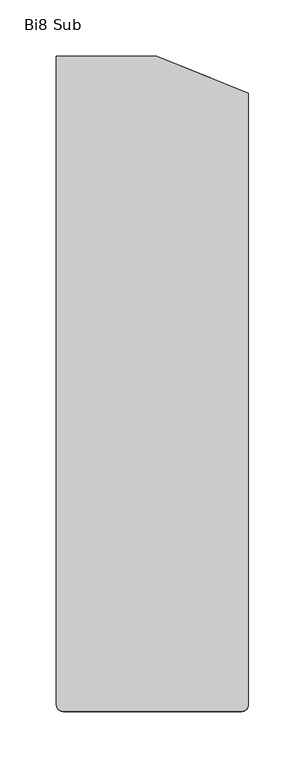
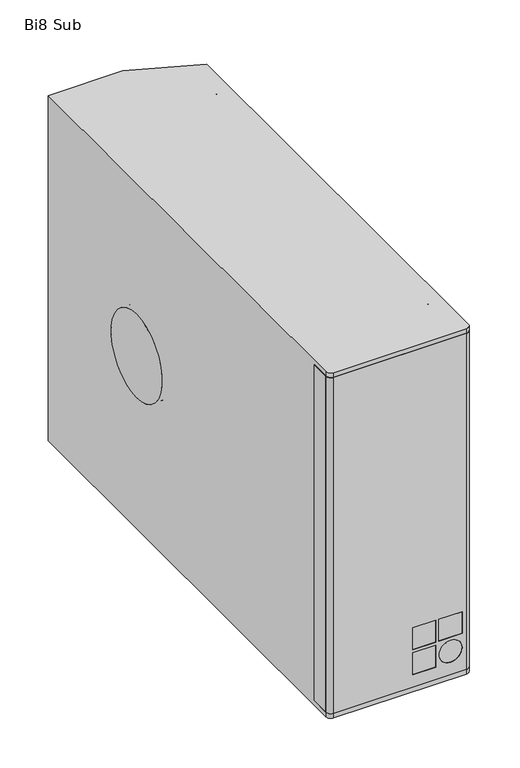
"""IFC4 building model written with IfcOpenShell, lengths in millimetres: proxy geometry, d&b Bi8 Subwoofer : Bi8 Sub."""

import ifcopenshell
import ifcopenshell.guid

model = None  # the IFC model being written
_history = None  # IfcOwnerHistory: only IFC2X3 demands one
_inside = {}  # id of a spatial element -> (the spatial element, [elements in it])
_under = {}  # id of a project, library or spatial element -> (it, [spatial elements below it])
_declared = {}  # id of a project -> (the project, [libraries it declares])
_typed = {}  # id of a type object -> (the type object, [elements of that type])
_made_of = {}  # id of a material, layer set ... -> (it, [elements and type objects made of it])


def new_model(schema):
    """Start an empty IFC model of exactly this schema.

    Asked for "IFC4X3", IfcOpenShell would pick the latest addendum, in which some entities
    have other attributes; the version numbers below select the first issue.
    IFC2X3 requires an IfcOwnerHistory on every rooted entity: one is made here for all.
    """
    global model, _history
    if schema == "IFC4X3":
        model = ifcopenshell.file(schema_version=(4, 3, 0, 0))
    else:
        model = ifcopenshell.file(schema=schema)
    _inside.clear()
    _under.clear()
    _declared.clear()
    _typed.clear()
    _made_of.clear()
    _history = None
    if model.schema == "IFC2X3":
        org = make("IfcOrganization", Name="unknown")
        user = make(
            "IfcPersonAndOrganization",
            ThePerson=make("IfcPerson", FamilyName="unknown"),
            TheOrganization=org,
        )
        app = make(
            "IfcApplication",
            ApplicationDeveloper=org,
            Version="unknown",
            ApplicationFullName="unknown",
            ApplicationIdentifier="unknown",
        )
        _history = make(
            "IfcOwnerHistory",
            OwningUser=user,
            OwningApplication=app,
            ChangeAction="ADDED",
            CreationDate=0,
        )
    return model


def make(cls, **values):
    """One entity of the class cls with the attributes given. An attribute that is None is left unset."""
    return model.create_entity(
        cls, **{name: value for name, value in values.items() if value is not None}
    )


def rooted(cls, **values):
    """An entity with a GlobalId (a new one), such as an element, a storey or a relation."""
    return make(cls, GlobalId=ifcopenshell.guid.new(), OwnerHistory=_history, **values)


def si_unit(unit_type, name, prefix=None):
    """IfcSIUnit, for example si_unit("LENGTHUNIT", "METRE", prefix="MILLI")."""
    return make("IfcSIUnit", UnitType=unit_type, Prefix=prefix, Name=name)


def assignment(units):
    """IfcUnitAssignment: the units of a project."""
    return None if units is None else make("IfcUnitAssignment", Units=units)


def point(xyz):
    """IfcCartesianPoint."""
    return None if xyz is None else make("IfcCartesianPoint", Coordinates=xyz)


def direction(xyz):
    """IfcDirection."""
    return None if xyz is None else make("IfcDirection", DirectionRatios=xyz)


def frame(location, z_axis=None, x_axis=None):
    """IfcAxis2Placement3D, a coordinate frame: its origin and axes. An axis left out is left unset."""
    return make(
        "IfcAxis2Placement3D",
        Location=point(location),
        Axis=direction(z_axis),
        RefDirection=direction(x_axis),
    )


def frame_2d(location, x_axis=None):
    """IfcAxis2Placement2D, a coordinate frame in the plane: its origin and x axis."""
    return make(
        "IfcAxis2Placement2D", Location=point(location), RefDirection=direction(x_axis)
    )


def origin():
    """The frame at (0, 0, 0) with its axes left unset."""
    return frame((0.0, 0.0, 0.0))


def place(relative_to, where):
    """IfcLocalPlacement: puts the frame where relative to a parent placement (None: the world)."""
    return make(
        "IfcLocalPlacement", PlacementRelTo=relative_to, RelativePlacement=where
    )


def context(
    kind, dimensions, precision=None, world=None, true_north=None, identifier=None
):
    """IfcGeometricRepresentationContext, for example the 3D "Model" context."""
    return make(
        "IfcGeometricRepresentationContext",
        ContextIdentifier=identifier,
        ContextType=kind,
        CoordinateSpaceDimension=dimensions,
        Precision=precision,
        WorldCoordinateSystem=world,
        TrueNorth=true_north,
    )


def project(units=None, contexts=None):
    """IfcProject with its units and contexts."""
    return rooted(
        "IfcProject",
        Name="project",
        RepresentationContexts=contexts,
        UnitsInContext=assignment(units),
    )


def spatial(cls, under=None, at=None, **own):
    """A site, building, storey or space (cls), placed at a placement, below another one or the project."""
    s = rooted(cls, ObjectPlacement=at, **own)
    if under is not None:
        _under.setdefault(under.id(), (under, []))[1].append(s)
    return s


def polyline(points):
    """IfcPolyline through the points."""
    return make("IfcPolyline", Points=[point(p) for p in points])


def circle_curve(where, radius):
    """IfcCircle in the frame where."""
    return make("IfcCircle", Position=where, Radius=radius)


def ellipse_curve(where, semi_axis1, semi_axis2):
    """IfcEllipse in the frame where."""
    return make(
        "IfcEllipse", Position=where, SemiAxis1=semi_axis1, SemiAxis2=semi_axis2
    )


def trimmed(basis, trim1, trim2, sense, master):
    """IfcTrimmedCurve: the piece of a basis curve between two trims."""
    return make(
        "IfcTrimmedCurve",
        BasisCurve=basis,
        Trim1=trim1,
        Trim2=trim2,
        SenseAgreement=sense,
        MasterRepresentation=master,
    )


def segment(curve, same_sense, transition):
    """IfcCompositeCurveSegment."""
    return make(
        "IfcCompositeCurveSegment",
        Transition=transition,
        SameSense=same_sense,
        ParentCurve=curve,
    )


def composite_curve(segments, self_intersect=None):
    """IfcCompositeCurve: segments joined end to end."""
    return make("IfcCompositeCurve", Segments=segments, SelfIntersect=self_intersect)


def outline(outer, holes=None, kind="AREA"):
    """IfcArbitraryClosedProfileDef: a profile drawn as a closed curve; with holes, ...WithVoids."""
    if holes is None:
        return make("IfcArbitraryClosedProfileDef", ProfileType=kind, OuterCurve=outer)
    return make(
        "IfcArbitraryProfileDefWithVoids",
        ProfileType=kind,
        OuterCurve=outer,
        InnerCurves=holes,
    )


def extrude(swept, where, along, depth):
    """IfcExtrudedAreaSolid: the profile swept, set in the frame where, extruded along a direction by depth."""
    return make(
        "IfcExtrudedAreaSolid",
        SweptArea=swept,
        Position=where,
        ExtrudedDirection=direction(along),
        Depth=depth,
    )


def shape(context_of_items, identifier, shape_type, items):
    """IfcShapeRepresentation: the items that make up one representation, for example the "Body"."""
    return make(
        "IfcShapeRepresentation",
        ContextOfItems=context_of_items,
        RepresentationIdentifier=identifier,
        RepresentationType=shape_type,
        Items=items,
    )


def source(mapping_origin, context_of_items, identifier, shape_type, items):
    """IfcRepresentationMap: a shape defined once, which mapped items show again and again."""
    return make(
        "IfcRepresentationMap",
        MappingOrigin=mapping_origin,
        MappedRepresentation=shape(context_of_items, identifier, shape_type, items),
    )


def transform(
    local_origin,
    x_axis=None,
    y_axis=None,
    z_axis=None,
    scale=None,
    scale2=None,
    scale3=None,
    uniform=True,
):
    """IfcCartesianTransformationOperator3D, or its non-uniform kind. x_axis, y_axis, z_axis: its Axis1, 2, 3."""
    if uniform:
        return make(
            "IfcCartesianTransformationOperator3D",
            Axis1=direction(x_axis),
            Axis2=direction(y_axis),
            LocalOrigin=point(local_origin),
            Scale=scale,
            Axis3=direction(z_axis),
        )
    return make(
        "IfcCartesianTransformationOperator3DnonUniform",
        Axis1=direction(x_axis),
        Axis2=direction(y_axis),
        LocalOrigin=point(local_origin),
        Scale=scale,
        Axis3=direction(z_axis),
        Scale2=scale2,
        Scale3=scale3,
    )


def mapped(mapping_source, mapping_target):
    """IfcMappedItem: shows the shape of a source again, moved by a transform."""
    return make(
        "IfcMappedItem", MappingSource=mapping_source, MappingTarget=mapping_target
    )


def made_of(thing, what):
    """Note that an element or type object is made of a material, layer set ...; save() writes the relation."""
    if what is not None:
        _made_of.setdefault(what.id(), (what, []))[1].append(thing)
    return thing


def element(
    cls,
    number,
    at=None,
    inside=None,
    cuts=None,
    type_object=None,
    material=None,
    context=None,
    identifier="Body",
    shape_type=None,
    held_by="IfcProductDefinitionShape",
    body=None,
    shapes=None,
    **own,
):
    """One element of the class cls, such as IfcWall. Its Tag is "e" and its number.

    at: its placement. inside: the storey or other place that contains it. cuts: it is an
    opening in that element (IfcRelVoidsElement). A single representation is given by context,
    identifier, shape_type and body (its items); several are given by shapes. held_by: the class
    of the entity that holds the representations. save() writes the other relations.
    """
    e = rooted(cls, Tag="e%d" % number, ObjectPlacement=at, **own)
    if body is not None:
        shapes = [shape(context, identifier, shape_type, body)]
    if shapes is not None:
        e.Representation = make(held_by, Representations=shapes)
    if inside is not None:
        _inside.setdefault(inside.id(), (inside, []))[1].append(e)
    if cuts is not None:
        rooted(
            "IfcRelVoidsElement", RelatingBuildingElement=cuts, RelatedOpeningElement=e
        )
    if type_object is not None:
        _typed.setdefault(type_object.id(), (type_object, []))[1].append(e)
    return made_of(e, material)


def aggregate(whole, parts):
    """IfcRelAggregates: a whole, such as a stair, and the parts it consists of."""
    return rooted("IfcRelAggregates", RelatingObject=whole, RelatedObjects=parts)


def save(model, path):
    """Write the relations noted so far, then the file.

    IfcRelAggregates (storeys below a building ...), IfcRelContainedInSpatialStructure (elements
    in a storey), IfcRelDefinesByType, IfcRelAssociatesMaterial and IfcRelDeclares: one each for
    every whole, place, type object, material and project.
    """
    for whole, parts in _under.values():
        aggregate(whole, parts)
    for where, things in _inside.values():
        rooted(
            "IfcRelContainedInSpatialStructure",
            RelatedElements=things,
            RelatingStructure=where,
        )
    for kind, things in _typed.values():
        rooted("IfcRelDefinesByType", RelatedObjects=things, RelatingType=kind)
    for what, things in _made_of.values():
        rooted("IfcRelAssociatesMaterial", RelatedObjects=things, RelatingMaterial=what)
    for by, libraries in _declared.values():
        rooted("IfcRelDeclares", RelatingContext=by, RelatedDefinitions=libraries)
    model.write(path)


def plane_surface(at):
    """IfcPlane: the flat surface through the origin of the frame at, square to its z axis."""
    return make("IfcPlane", Position=at)


def cylinder_surface(at, radius):
    """IfcCylindricalSurface: all points at the distance radius from the z axis of the frame at."""
    return make("IfcCylindricalSurface", Position=at, Radius=radius)


def revolved_surface(curve, axis_point, axis_direction):
    """IfcSurfaceOfRevolution: the curve turned about the line through axis_point along axis_direction."""
    return make(
        "IfcSurfaceOfRevolution",
        SweptCurve=make("IfcArbitraryOpenProfileDef", ProfileType="CURVE", Curve=curve),
        AxisPosition=make("IfcAxis1Placement", Location=point(axis_point), Axis=direction(axis_direction)),
    )


def advanced_brep(points, edges, surfaces, faces):
    """IfcAdvancedBrep: a solid bounded by faces that lie on surfaces and meet in shared edges.

    An edge is (start, end): straight between two places in points (the first is 0);
    or (start, end, curve); or (start, end, curve, False) where it runs against its curve.
    A face is (place in surfaces, loops), or (place, loops, False) where it looks against
    its surface's normal. A loop lists edges by number (the first is 1), with a minus sign
    where the edge is run from its end to its start. The first loop is the outer one.
    """
    corners = [point(p) for p in points]
    vertices = [make("IfcVertexPoint", VertexGeometry=c) for c in corners]
    made = []
    for start, end, *more in edges:
        made.append(
            make(
                "IfcEdgeCurve",
                EdgeStart=vertices[start],
                EdgeEnd=vertices[end],
                EdgeGeometry=more[0] if more else make("IfcPolyline", Points=[corners[start], corners[end]]),
                SameSense=more[1] if len(more) > 1 else True,
            )
        )
    hull = []
    for where, loops, *sense in faces:
        bounds = []
        for j, loop in enumerate(loops):
            ring = [make("IfcOrientedEdge", EdgeElement=made[abs(k) - 1], Orientation=k > 0) for k in loop]
            bounds.append(
                make(
                    "IfcFaceOuterBound" if j == 0 else "IfcFaceBound",
                    Bound=make("IfcEdgeLoop", EdgeList=ring),
                    Orientation=True,
                )
            )
        hull.append(make("IfcAdvancedFace", Bounds=bounds, FaceSurface=surfaces[where], SameSense=sense[0] if sense else True))
    return make("IfcAdvancedBrep", Outer=make("IfcClosedShell", CfsFaces=hull))


def bi8_sub_f5dac4f3(model_context):
    return source(origin(), model_context, "Body", "SolidModel", [
        advanced_brep(
        [(76.25, -290.0, 212.0), (82.25, -284.0, 212.0), (-87.75, -284.0, 212.0), (-81.75, -290.0, 212.0), (76.25, -290.0, -212.0), (-81.75, -290.0, -212.0), (-87.75, -284.0, -212.0), (82.25, -284.0, -212.0), (39.7780899, -290.0, -164.8089888), (12.25, -290.0, -164.8089888), (12.25, -290.0, -137.2808989), (39.7780899, -290.0, -137.2808989), (39.7780899, -290.0, -196.2696629), (12.25, -290.0, -196.2696629), (12.25, -290.0, -168.741573), (39.7780899, -290.0, -168.741573), (71.238764, -290.0, -164.8089888), (43.7106742, -290.0, -164.8089888), (43.7106742, -290.0, -137.2808989), (71.238764, -290.0, -137.2808989), (57.4747191, -290.0, -168.741573), (57.4747191, -290.0, -196.2696629), (12.25, -284.0, -164.8089888), (39.7780899, -284.0, -164.8089888), (39.7780899, -284.0, -137.2808989), (12.25, -284.0, -137.2808989), (12.25, -284.0, -196.2696629), (39.7780899, -284.0, -196.2696629), (39.7780899, -284.0, -168.741573), (12.25, -284.0, -168.741573), (43.7106742, -284.0, -164.8089888), (71.238764, -284.0, -164.8089888), (71.238764, -284.0, -137.2808989), (43.7106742, -284.0, -137.2808989), (57.4747191, -284.0, -196.2696629), (57.4747191, -284.0, -168.741573)],
        [
            (0, 1, circle_curve(frame((76.25, -284.0, 212.0), z_axis=(0.0, 0.0, 1.0), x_axis=(0.0, 1.0, 0.0)), 6.0)),
            (1, 2),
            (2, 3, circle_curve(frame((-81.75, -284.0, 212.0), z_axis=(0.0, 0.0, 1.0), x_axis=(0.0, 1.0, 0.0)), 6.0)),
            (3, 0),
            (4, 5),
            (5, 6, circle_curve(frame((-81.75, -284.0, -212.0), z_axis=(0.0, 0.0, -1.0), x_axis=(0.0, 1.0, 0.0)), 6.0)),
            (6, 7),
            (7, 4, circle_curve(frame((76.25, -284.0, -212.0), z_axis=(0.0, 0.0, -1.0), x_axis=(0.0, 1.0, 0.0)), 6.0)),
            (3, 5),
            (4, 0),
            (8, 9),
            (9, 10),
            (10, 11),
            (11, 8),
            (12, 13),
            (13, 14),
            (14, 15),
            (15, 12),
            (16, 17),
            (17, 18),
            (18, 19),
            (19, 16),
            (20, 21, circle_curve(frame((57.4747191, -290.0, -182.505618), z_axis=(0.0, 1.0, 0.0), x_axis=(0.0, 0.0, 1.0)), 13.7640449)),
            (21, 20, circle_curve(frame((57.4747191, -290.0, -182.505618), z_axis=(0.0, 1.0, 0.0), x_axis=(0.0, 0.0, 1.0)), 13.7640449)),
            (2, 6),
            (7, 1),
            (22, 23),
            (23, 24),
            (24, 25),
            (25, 22),
            (26, 27),
            (27, 28),
            (28, 29),
            (29, 26),
            (30, 31),
            (31, 32),
            (32, 33),
            (33, 30),
            (34, 35, circle_curve(frame((57.4747191, -284.0, -182.505618), z_axis=(0.0, -1.0, 0.0), x_axis=(0.0, 0.0, 1.0)), 13.7640449)),
            (35, 34, circle_curve(frame((57.4747191, -284.0, -182.505618), z_axis=(0.0, -1.0, 0.0), x_axis=(0.0, 0.0, 1.0)), 13.7640449)),
            (23, 8),
            (11, 24),
            (10, 25),
            (9, 22),
            (31, 16),
            (19, 32),
            (18, 33),
            (17, 30),
            (12, 27),
            (26, 13),
            (15, 28),
            (14, 29),
            (20, 35),
            (34, 21),
        ],
        [
            plane_surface(frame((76.25, -278.0, 212.0), z_axis=(0.0, 0.0, 1.0), x_axis=(-1.0, 0.0, 0.0))),
            plane_surface(frame((76.25, -278.0, -212.0), z_axis=(0.0, 0.0, -1.0), x_axis=(1.0, 0.0, 0.0))),
            plane_surface(frame((-81.75, -290.0, 212.0), z_axis=(0.0, -1.0, 0.0), x_axis=(0.0, 0.0, -1.0))),
            cylinder_surface(frame((-81.75, -284.0, -212.0), z_axis=(0.0, 0.0, 1.0), x_axis=(0.0, 1.0, 0.0)), 6.0),
            cylinder_surface(frame((76.25, -284.0, -212.0), z_axis=(0.0, 0.0, 1.0), x_axis=(0.0, 1.0, 0.0)), 6.0),
            plane_surface(frame((82.25, -284.0, 212.0), z_axis=(0.0, 1.0, 0.0), x_axis=(0.0, 0.0, -1.0))),
            plane_surface(frame((39.7780899, -290.0, -164.8089888), z_axis=(-1.0, 0.0, 0.0), x_axis=(0.0, 1.0, 0.0))),
            plane_surface(frame((39.7780899, -290.0, -137.2808989), z_axis=(0.0, 0.0, -1.0), x_axis=(0.0, 1.0, 0.0))),
            plane_surface(frame((12.25, -290.0, -137.2808989), z_axis=(1.0, 0.0, 0.0), x_axis=(0.0, 1.0, 0.0))),
            plane_surface(frame((71.238764, -290.0, -164.8089888), z_axis=(-1.0, 0.0, 0.0), x_axis=(0.0, 1.0, 0.0))),
            plane_surface(frame((71.238764, -290.0, -137.2808989), z_axis=(0.0, 0.0, -1.0), x_axis=(0.0, 1.0, 0.0))),
            plane_surface(frame((43.7106742, -290.0, -137.2808989), z_axis=(1.0, 0.0, 0.0), x_axis=(0.0, 1.0, 0.0))),
            plane_surface(frame((12.25, -290.0, -164.8089888), z_axis=(0.0, 0.0, 1.0), x_axis=(0.0, 1.0, 0.0))),
            plane_surface(frame((12.25, -290.0, -196.2696629), z_axis=(0.0, 0.0, 1.0), x_axis=(0.0, 1.0, 0.0))),
            plane_surface(frame((39.7780899, -290.0, -196.2696629), z_axis=(-1.0, 0.0, 0.0), x_axis=(0.0, 1.0, 0.0))),
            plane_surface(frame((39.7780899, -290.0, -168.741573), z_axis=(0.0, 0.0, -1.0), x_axis=(0.0, 1.0, 0.0))),
            plane_surface(frame((12.25, -290.0, -168.741573), z_axis=(1.0, 0.0, 0.0), x_axis=(0.0, 1.0, 0.0))),
            plane_surface(frame((43.7106742, -290.0, -164.8089888), z_axis=(0.0, 0.0, 1.0), x_axis=(0.0, 1.0, 0.0))),
            revolved_surface(polyline([(57.4747191, -290.0, -168.7415731), (57.4747191, -284.0, -168.7415731)]), (57.4747191, -290.0, -182.505618), (0.0, -1.0, 0.0)),
        ],
        [
            (0, [[1, 2, 3, 4]]),
            (1, [[5, 6, 7, 8]]),
            (2, [[-4, 9, -5, 10], [11, 12, 13, 14], [15, 16, 17, 18], [19, 20, 21, 22], [23, 24]]),
            (3, [[-3, 25, -6, -9]]),
            (4, [[-1, -10, -8, 26]]),
            (5, [[-2, -26, -7, -25], [27, 28, 29, 30], [31, 32, 33, 34], [35, 36, 37, 38], [39, 40]]),
            (6, [[41, -14, 42, -28]]),
            (7, [[-42, -13, 43, -29]]),
            (8, [[44, -30, -43, -12]]),
            (9, [[45, -22, 46, -36]]),
            (10, [[-46, -21, 47, -37]]),
            (11, [[48, -38, -47, -20]]),
            (12, [[-41, -27, -44, -11]]),
            (13, [[49, -31, 50, -15]]),
            (14, [[-49, -18, 51, -32]]),
            (15, [[-51, -17, 52, -33]]),
            (16, [[-50, -34, -52, -16]]),
            (17, [[-45, -35, -48, -19]]),
            (18, [[53, -39, 54, -23]]),
            (18, [[-53, -24, -54, -40]]),
        ],
    ),
        extrude(outline(polyline([(39.7780899, -290.0), (12.25, -290.0), (12.25, -284.0), (39.7780899, -284.0), (39.7780899, -290.0)])), frame((0.0, 0.0, -164.8089888), z_axis=(0.0, 0.0, 1.0), x_axis=(1.0, 0.0, 0.0)), (0.0, 0.0, 1.0), 27.5280899),
        extrude(outline(polyline([(39.7780899, -290.0), (12.25, -290.0), (12.25, -284.0), (39.7780899, -284.0), (39.7780899, -290.0)])), frame((0.0, 0.0, -196.2696629), z_axis=(0.0, 0.0, 1.0), x_axis=(1.0, 0.0, 0.0)), (0.0, 0.0, 1.0), 27.5280899),
        extrude(outline(polyline([(71.238764, -290.0), (43.7106742, -290.0), (43.7106742, -284.0), (71.238764, -284.0), (71.238764, -290.0)])), frame((0.0, 0.0, -164.8089888), z_axis=(0.0, 0.0, 1.0), x_axis=(1.0, 0.0, 0.0)), (0.0, 0.0, 1.0), 27.5280899),
        extrude(outline(composite_curve([segment(trimmed(circle_curve(frame_2d((-182.505618, 57.4747191)), 13.7640449), [point((-196.2696629, 57.4747191))], [point((-168.741573, 57.4747191))], False, "CARTESIAN"), True, "CONTINUOUS"), segment(trimmed(circle_curve(frame_2d((-182.505618, 57.4747191)), 13.7640449), [point((-168.741573, 57.4747191))], [point((-196.2696629, 57.4747191))], False, "CARTESIAN"), True, "CONTINUOUS")], self_intersect=False)), frame((0.0, -290.0, 0.0), z_axis=(0.0, 1.0, 0.0), x_axis=(0.0, 0.0, 1.0)), (0.0, 0.0, 1.0), 6.0),
        extrude(outline(polyline([(-87.75, -284.0), (-87.75, -260.0), (82.25, -260.0), (82.25, -284.0), (-87.75, -284.0)])), frame((0.0, 0.0, -212.0), z_axis=(0.0, 0.0, 1.0), x_axis=(1.0, 0.0, 0.0)), (0.0, 0.0, 1.0), 424.0),
        extrude(outline(composite_curve([segment(trimmed(circle_curve(frame_2d((107.5, 0.0)), 52.5), [point((107.5, 52.5))], [point((107.5, -52.5))], False, "CARTESIAN"), True, "CONTINUOUS"), segment(trimmed(circle_curve(frame_2d((107.5, 0.0)), 52.5), [point((107.5, -52.5))], [point((107.5, 52.5))], False, "CARTESIAN"), True, "CONTINUOUS")], self_intersect=False)), frame((-87.75, 0.0, 0.0), z_axis=(1.0, 0.0, 0.0), x_axis=(0.0, 1.0, 0.0)), (0.0, 0.0, 1.0), 10.0),
        advanced_brep(
        [(82.25, -260.0, 212.0), (82.25, -260.0, -212.0), (82.25, -284.0, -212.0), (82.25, -284.0, -218.0), (82.25, 257.2738757, -218.0), (82.25, 257.2738757, 218.0), (82.25, -284.0, 218.0), (82.25, -284.0, 212.0), (82.25, 224.9288972, -159.7271934), (82.25, 224.9288972, -196.2271934), (82.25, 224.9288972, 196.2271934), (82.25, 224.9288972, 159.7271934), (82.25, -212.1163972, -159.7271934), (82.25, -212.1163972, -196.2271934), (82.25, -212.1163972, 196.2271934), (82.25, -212.1163972, 159.7271934), (1.25, 290.0, -218.0), (1.25, 290.0, -58.4448475), (3.0522628, 289.2718385, -58.4448475), (48.3436972, 270.9729113, -58.4448475), (60.3436972, 266.1245966, -46.4448475), (60.3436972, 266.1245966, 45.487267), (48.3436972, 270.9729113, 57.487267), (3.0522628, 289.2718385, 57.487267), (1.25, 290.0, 57.487267), (1.25, 290.0, 218.0), (-87.75, 290.0, -218.0), (-87.75, 290.0, 218.0), (-0.6938031, 290.0, 57.487267), (-47.4846055, 290.0, 57.487267), (-59.4846055, 290.0, 45.487267), (-59.4846055, 290.0, -46.4448475), (-47.4846055, 290.0, -58.4448475), (-0.6938031, 290.0, -58.4448475), (-87.75, -260.0, -212.0), (-87.75, -260.0, 212.0), (-87.75, -284.0, 212.0), (-87.75, -284.0, 218.0), (-87.75, -284.0, -218.0), (-87.75, -284.0, -212.0), (-87.75, 107.5, -52.5), (-87.75, 107.5, 52.5), (-81.75, -290.0, -212.0), (76.25, -290.0, -212.0), (76.25, -290.0, -218.0), (-81.75, -290.0, -218.0), (-57.75, 193.75, -218.0), (-57.75, 230.25, -218.0), (52.25, 193.75, -218.0), (52.25, 230.25, -218.0), (-57.75, -243.25, -218.0), (-57.75, -206.75, -218.0), (52.25, -243.25, -218.0), (52.25, -206.75, -218.0), (76.25, -290.0, 212.0), (-81.75, -290.0, 212.0), (-81.75, -290.0, 218.0), (76.25, -290.0, 218.0), (-77.75, 107.5, 52.5), (-77.75, 107.5, -52.5), (60.3436972, 256.954574, 45.487267), (60.3436972, 256.954574, -46.4448475), (54.6323637, 256.954574, -56.6650566), (54.6323637, 256.954574, 55.7074761), (-59.4846055, 256.954574, -46.4448475), (-59.4846055, 256.954574, 45.487267), (-57.9558933, 256.954574, 51.3483362), (-57.9558933, 256.954574, -52.3059167), (-57.9558933, 256.954574, 58.4448475), (54.6323637, 256.954574, 58.4448475), (36.3433986, 211.6877968, 58.4448475), (-60.4453371, 250.7929844, 58.4448475), (-60.4453371, 250.7929844, -58.4448475), (-57.9558933, 256.954574, -58.4448475), (36.3433986, 211.6877968, -58.4448475), (54.6323637, 256.954574, -58.4448475), (-47.4846055, 256.954574, 57.487267), (48.3436972, 256.954574, 57.487267), (-47.4846055, 256.954574, -58.4448475), (48.3436972, 256.954574, -58.4448475), (-57.75, 193.75, -212.5), (-57.75, 230.25, -212.5), (52.25, 193.75, -212.5), (52.25, 230.25, -212.5), (-57.75, -243.25, -212.5), (-57.75, -206.75, -212.5), (52.25, -243.25, -212.5), (52.25, -206.75, -212.5), (76.75, 224.9288972, -159.7271934), (76.75, 224.9288972, -196.2271934), (76.75, 224.9288972, 196.2271934), (76.75, 224.9288972, 159.7271934), (76.75, -212.1163972, -159.7271934), (76.75, -212.1163972, -196.2271934), (76.75, -212.1163972, 196.2271934), (76.75, -212.1163972, 159.7271934)],
        [
            (0, 1),
            (1, 2),
            (2, 3),
            (3, 4),
            (4, 5),
            (5, 6),
            (6, 7),
            (7, 0),
            (8, 9, circle_curve(frame((82.25, 224.9288972, -177.9771934), z_axis=(-1.0, 0.0, 0.0), x_axis=(0.0, 0.0, -1.0)), 18.25)),
            (9, 8, circle_curve(frame((82.25, 224.9288972, -177.9771934), z_axis=(-1.0, 0.0, 0.0), x_axis=(0.0, 0.0, -1.0)), 18.25)),
            (10, 11, circle_curve(frame((82.25, 224.9288972, 177.9771934), z_axis=(-1.0, 0.0, 0.0), x_axis=(0.0, 0.0, -1.0)), 18.25)),
            (11, 10, circle_curve(frame((82.25, 224.9288972, 177.9771934), z_axis=(-1.0, 0.0, 0.0), x_axis=(0.0, 0.0, -1.0)), 18.25)),
            (12, 13, circle_curve(frame((82.25, -212.1163972, -177.9771934), z_axis=(-1.0, 0.0, 0.0), x_axis=(0.0, 0.0, -1.0)), 18.25)),
            (13, 12, circle_curve(frame((82.25, -212.1163972, -177.9771934), z_axis=(-1.0, 0.0, 0.0), x_axis=(0.0, 0.0, -1.0)), 18.25)),
            (14, 15, circle_curve(frame((82.25, -212.1163972, 177.9771934), z_axis=(-1.0, 0.0, 0.0), x_axis=(0.0, 0.0, -1.0)), 18.25)),
            (15, 14, circle_curve(frame((82.25, -212.1163972, 177.9771934), z_axis=(-1.0, 0.0, 0.0), x_axis=(0.0, 0.0, -1.0)), 18.25)),
            (4, 16),
            (16, 17),
            (17, 18),
            (18, 19),
            (19, 20, ellipse_curve(frame((48.3436972, 270.9729113, -46.4448475), z_axis=(-0.3746065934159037, -0.9271838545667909, 0.0), x_axis=(-0.927183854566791, 0.37460659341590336, 0.0)), 12.9424169, 12.0)),
            (20, 21),
            (21, 22, ellipse_curve(frame((48.3436972, 270.9729113, 45.487267), z_axis=(-0.3746065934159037, -0.9271838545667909, 0.0), x_axis=(-0.927183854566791, 0.37460659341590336, 0.0)), 12.9424169, 12.0)),
            (22, 23),
            (23, 24),
            (24, 25),
            (25, 5),
            (16, 26),
            (26, 27),
            (27, 25),
            (24, 28),
            (28, 29),
            (29, 30, circle_curve(frame((-47.4846055, 290.0, 45.487267), z_axis=(0.0, -1.0, 0.0), x_axis=(0.0, 0.0, -1.0)), 12.0)),
            (30, 31),
            (31, 32, circle_curve(frame((-47.4846055, 290.0, -46.4448475), z_axis=(0.0, -1.0, 0.0), x_axis=(0.0, 0.0, -1.0)), 12.0)),
            (32, 33),
            (33, 17),
            (34, 35),
            (35, 36),
            (36, 37),
            (37, 27),
            (26, 38),
            (38, 39),
            (39, 34),
            (40, 41, circle_curve(frame((-87.75, 107.5, 0.0), z_axis=(1.0, 0.0, 0.0), x_axis=(0.0, 0.0, -1.0)), 52.5)),
            (41, 40, circle_curve(frame((-87.75, 107.5, 0.0), z_axis=(1.0, 0.0, 0.0), x_axis=(0.0, 0.0, -1.0)), 52.5)),
            (0, 35),
            (34, 1),
            (39, 42, circle_curve(frame((-81.75, -284.0, -212.0), z_axis=(0.0, 0.0, 1.0), x_axis=(0.0, 1.0, 0.0)), 6.0)),
            (42, 43),
            (43, 2, circle_curve(frame((76.25, -284.0, -212.0), z_axis=(0.0, 0.0, 1.0), x_axis=(0.0, 1.0, 0.0)), 6.0)),
            (3, 44, circle_curve(frame((76.25, -284.0, -218.0), z_axis=(0.0, 0.0, -1.0), x_axis=(0.0, 1.0, 0.0)), 6.0)),
            (44, 45),
            (45, 38, circle_curve(frame((-81.75, -284.0, -218.0), z_axis=(0.0, 0.0, -1.0), x_axis=(0.0, 1.0, 0.0)), 6.0)),
            (46, 47, circle_curve(frame((-57.75, 212.0, -218.0), z_axis=(0.0, 0.0, 1.0), x_axis=(0.0, 1.0, 0.0)), 18.25)),
            (47, 46, circle_curve(frame((-57.75, 212.0, -218.0), z_axis=(0.0, 0.0, 1.0), x_axis=(0.0, 1.0, 0.0)), 18.25)),
            (48, 49, circle_curve(frame((52.25, 212.0, -218.0), z_axis=(0.0, 0.0, 1.0), x_axis=(0.0, 1.0, 0.0)), 18.25)),
            (49, 48, circle_curve(frame((52.25, 212.0, -218.0), z_axis=(0.0, 0.0, 1.0), x_axis=(0.0, 1.0, 0.0)), 18.25)),
            (50, 51, circle_curve(frame((-57.75, -225.0, -218.0), z_axis=(0.0, 0.0, 1.0), x_axis=(0.0, 1.0, 0.0)), 18.25)),
            (51, 50, circle_curve(frame((-57.75, -225.0, -218.0), z_axis=(0.0, 0.0, 1.0), x_axis=(0.0, 1.0, 0.0)), 18.25)),
            (52, 53, circle_curve(frame((52.25, -225.0, -218.0), z_axis=(0.0, 0.0, 1.0), x_axis=(0.0, 1.0, 0.0)), 18.25)),
            (53, 52, circle_curve(frame((52.25, -225.0, -218.0), z_axis=(0.0, 0.0, 1.0), x_axis=(0.0, 1.0, 0.0)), 18.25)),
            (42, 45),
            (44, 43),
            (7, 54, circle_curve(frame((76.25, -284.0, 212.0), z_axis=(0.0, 0.0, -1.0), x_axis=(0.0, 1.0, 0.0)), 6.0)),
            (54, 55),
            (55, 36, circle_curve(frame((-81.75, -284.0, 212.0), z_axis=(0.0, 0.0, -1.0), x_axis=(0.0, 1.0, 0.0)), 6.0)),
            (37, 56, circle_curve(frame((-81.75, -284.0, 218.0), z_axis=(0.0, 0.0, 1.0), x_axis=(0.0, 1.0, 0.0)), 6.0)),
            (56, 57),
            (57, 6, circle_curve(frame((76.25, -284.0, 218.0), z_axis=(0.0, 0.0, 1.0), x_axis=(0.0, 1.0, 0.0)), 6.0)),
            (54, 57),
            (56, 55),
            (58, 59, circle_curve(frame((-77.75, 107.5, 0.0), z_axis=(-1.0, 0.0, 0.0), x_axis=(0.0, 0.0, -1.0)), 52.5)),
            (59, 58, circle_curve(frame((-77.75, 107.5, 0.0), z_axis=(-1.0, 0.0, 0.0), x_axis=(0.0, 0.0, -1.0)), 52.5)),
            (58, 41),
            (40, 59),
            (60, 61),
            (61, 62, circle_curve(frame((48.3436972, 256.954574, -46.4448475), z_axis=(0.0, 1.0, 0.0), x_axis=(0.0, 0.0, -1.0)), 12.0)),
            (62, 63),
            (63, 60, circle_curve(frame((48.3436972, 256.954574, 45.487267), z_axis=(0.0, 1.0, 0.0), x_axis=(0.0, 0.0, -1.0)), 12.0)),
            (64, 65),
            (65, 66, circle_curve(frame((-47.4846055, 256.954574, 45.487267), z_axis=(0.0, 1.0, 0.0), x_axis=(0.0, 0.0, -1.0)), 12.0)),
            (66, 67),
            (67, 64, circle_curve(frame((-47.4846055, 256.954574, -46.4448475), z_axis=(0.0, 1.0, 0.0), x_axis=(0.0, 0.0, -1.0)), 12.0)),
            (60, 21),
            (20, 61),
            (64, 31),
            (30, 65),
            (68, 69),
            (69, 70),
            (70, 71),
            (71, 68),
            (71, 72),
            (72, 73),
            (73, 67),
            (66, 68),
            (70, 74),
            (74, 72),
            (69, 63),
            (62, 75),
            (75, 74),
            (66, 76, circle_curve(frame((-47.4846055, 256.954574, 45.487267), z_axis=(0.0, 1.0, 0.0), x_axis=(0.0, 0.0, -1.0)), 12.0)),
            (76, 77),
            (77, 63, circle_curve(frame((48.3436972, 256.954574, 45.487267), z_axis=(0.0, 1.0, 0.0), x_axis=(0.0, 0.0, -1.0)), 12.0)),
            (73, 78),
            (78, 67, circle_curve(frame((-47.4846055, 256.954574, -46.4448475), z_axis=(0.0, 1.0, 0.0), x_axis=(0.0, 0.0, -1.0)), 12.0)),
            (79, 75),
            (62, 79, circle_curve(frame((48.3436972, 256.954574, -46.4448475), z_axis=(0.0, 1.0, 0.0), x_axis=(0.0, 0.0, -1.0)), 12.0)),
            (76, 29),
            (22, 77),
            (19, 79),
            (32, 78),
            (80, 81, circle_curve(frame((-57.75, 212.0, -212.5), z_axis=(0.0, 0.0, -1.0), x_axis=(0.0, 1.0, 0.0)), 18.25)),
            (81, 80, circle_curve(frame((-57.75, 212.0, -212.5), z_axis=(0.0, 0.0, -1.0), x_axis=(0.0, 1.0, 0.0)), 18.25)),
            (82, 83, circle_curve(frame((52.25, 212.0, -212.5), z_axis=(0.0, 0.0, -1.0), x_axis=(0.0, 1.0, 0.0)), 18.25)),
            (83, 82, circle_curve(frame((52.25, 212.0, -212.5), z_axis=(0.0, 0.0, -1.0), x_axis=(0.0, 1.0, 0.0)), 18.25)),
            (84, 85, circle_curve(frame((-57.75, -225.0, -212.5), z_axis=(0.0, 0.0, -1.0), x_axis=(0.0, 1.0, 0.0)), 18.25)),
            (85, 84, circle_curve(frame((-57.75, -225.0, -212.5), z_axis=(0.0, 0.0, -1.0), x_axis=(0.0, 1.0, 0.0)), 18.25)),
            (86, 87, circle_curve(frame((52.25, -225.0, -212.5), z_axis=(0.0, 0.0, -1.0), x_axis=(0.0, 1.0, 0.0)), 18.25)),
            (87, 86, circle_curve(frame((52.25, -225.0, -212.5), z_axis=(0.0, 0.0, -1.0), x_axis=(0.0, 1.0, 0.0)), 18.25)),
            (81, 47),
            (46, 80),
            (83, 49),
            (48, 82),
            (85, 51),
            (50, 84),
            (87, 53),
            (52, 86),
            (88, 89, circle_curve(frame((76.75, 224.9288972, -177.9771934), z_axis=(1.0, 0.0, 0.0), x_axis=(0.0, 0.0, -1.0)), 18.25)),
            (89, 88, circle_curve(frame((76.75, 224.9288972, -177.9771934), z_axis=(1.0, 0.0, 0.0), x_axis=(0.0, 0.0, -1.0)), 18.25)),
            (90, 91, circle_curve(frame((76.75, 224.9288972, 177.9771934), z_axis=(1.0, 0.0, 0.0), x_axis=(0.0, 0.0, -1.0)), 18.25)),
            (91, 90, circle_curve(frame((76.75, 224.9288972, 177.9771934), z_axis=(1.0, 0.0, 0.0), x_axis=(0.0, 0.0, -1.0)), 18.25)),
            (92, 93, circle_curve(frame((76.75, -212.1163972, -177.9771934), z_axis=(1.0, 0.0, 0.0), x_axis=(0.0, 0.0, -1.0)), 18.25)),
            (93, 92, circle_curve(frame((76.75, -212.1163972, -177.9771934), z_axis=(1.0, 0.0, 0.0), x_axis=(0.0, 0.0, -1.0)), 18.25)),
            (94, 95, circle_curve(frame((76.75, -212.1163972, 177.9771934), z_axis=(1.0, 0.0, 0.0), x_axis=(0.0, 0.0, -1.0)), 18.25)),
            (95, 94, circle_curve(frame((76.75, -212.1163972, 177.9771934), z_axis=(1.0, 0.0, 0.0), x_axis=(0.0, 0.0, -1.0)), 18.25)),
            (89, 9),
            (8, 88),
            (91, 11),
            (10, 90),
            (93, 13),
            (12, 92),
            (95, 15),
            (14, 94),
        ],
        [
            plane_surface(frame((82.25, -260.0, 212.0), z_axis=(1.0, 0.0, 0.0), x_axis=(0.0, 0.0, -1.0))),
            plane_surface(frame((82.25, 257.2738757, 212.0), z_axis=(0.3746065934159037, 0.9271838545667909, 0.0), x_axis=(0.0, 0.0, -1.0))),
            plane_surface(frame((1.25, 290.0, 212.0), z_axis=(0.0, 1.0, 0.0), x_axis=(0.0, 0.0, -1.0))),
            plane_surface(frame((-87.75, 290.0, 212.0), z_axis=(-1.0, 0.0, 0.0), x_axis=(0.0, 0.0, -1.0))),
            plane_surface(frame((-87.75, -260.0, 212.0), z_axis=(0.0, -1.0, 0.0), x_axis=(0.0, 0.0, -1.0))),
            plane_surface(frame((-81.75, -278.0, -212.0), z_axis=(0.0, 0.0, 1.0), x_axis=(-1.0, 0.0, 0.0))),
            plane_surface(frame((-81.75, -278.0, -218.0), z_axis=(0.0, 0.0, -1.0), x_axis=(1.0, 0.0, 0.0))),
            plane_surface(frame((-81.75, -290.0, -212.0), z_axis=(0.0, -1.0, 0.0), x_axis=(0.0, 0.0, -1.0))),
            cylinder_surface(frame((-81.75, -284.0, -218.0), z_axis=(0.0, 0.0, 1.0), x_axis=(0.0, 1.0, 0.0)), 6.0),
            cylinder_surface(frame((76.25, -284.0, -218.0), z_axis=(0.0, 0.0, 1.0), x_axis=(0.0, 1.0, 0.0)), 6.0),
            plane_surface(frame((-87.75, 264.0, 212.0), z_axis=(0.0, 0.0, -1.0), x_axis=(0.0, 1.0, 0.0))),
            plane_surface(frame((-87.75, 264.0, 218.0), z_axis=(0.0, 0.0, 1.0), x_axis=(0.0, -1.0, 0.0))),
            plane_surface(frame((76.25, -290.0, 212.0), z_axis=(0.0, -1.0, 0.0), x_axis=(0.0, 0.0, 1.0))),
            cylinder_surface(frame((76.25, -284.0, 218.0), z_axis=(0.0, 0.0, -1.0), x_axis=(0.0, 1.0, 0.0)), 6.0),
            cylinder_surface(frame((-81.75, -284.0, 218.0), z_axis=(0.0, 0.0, -1.0), x_axis=(0.0, 1.0, 0.0)), 6.0),
            plane_surface(frame((-77.75, 107.5, -52.5), z_axis=(-1.0, 0.0, 0.0), x_axis=(0.0, 1.0, 0.0))),
            revolved_surface(polyline([(-87.75, 107.5, -52.5), (-77.75, 107.5, -52.5)]), (-77.75, 107.5, 0.0), (-1.0, 0.0, 0.0)),
            plane_surface(frame((-47.4846055, 256.954574, 33.487267), z_axis=(0.0, 1.0, 0.0), x_axis=(1.0, 0.0, 0.0))),
            plane_surface(frame((60.3436972, 290.0, 45.487267), z_axis=(-1.0, 0.0, 0.0), x_axis=(0.0, -1.0, 0.0))),
            plane_surface(frame((-59.4846055, 290.0, -46.4448475), z_axis=(1.0, 0.0, 0.0), x_axis=(0.0, -1.0, 0.0))),
            plane_surface(frame((-60.4453371, 250.7929844, 58.4448475), z_axis=(0.0, 0.0, -1.0000000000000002), x_axis=(-0.3746065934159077, -0.9271838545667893, 0.0))),
            plane_surface(frame((-57.9558933, 256.954574, 58.4448475), z_axis=(0.9271838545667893, -0.3746065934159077, 0.0), x_axis=(0.0, 0.0, -1.0))),
            plane_surface(frame((-60.4453371, 250.7929844, 58.4448475), z_axis=(0.37460659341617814, 0.92718385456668, 0.0), x_axis=(0.0, 0.0, -1.0))),
            plane_surface(frame((36.3433986, 211.6877968, 58.4448475), z_axis=(-0.9271838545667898, 0.3746065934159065, 0.0), x_axis=(0.0, 0.0, -1.0))),
            plane_surface(frame((54.6323637, 256.954574, 58.4448475), z_axis=(0.0, -1.0, 0.0), x_axis=(0.0, 0.0, -1.0))),
            plane_surface(frame((-47.4846055, 290.0, 57.487267), z_axis=(0.0, 0.0, -1.0), x_axis=(0.0, -1.0, 0.0))),
            revolved_surface(polyline([(48.3436972, 275.82122600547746, 33.487267), (48.3436972, 256.954574, 33.487267)]), (48.3436972, 256.954574, 45.487267), (0.0, 1.0, 0.0)),
            revolved_surface(polyline([(48.3436972, 275.82122600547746, -58.4448475), (48.3436972, 256.954574, -58.4448475)]), (48.3436972, 256.954574, -46.4448475), (0.0, 1.0, 0.0)),
            plane_surface(frame((48.3436972, 290.0, -58.4448475), z_axis=(0.0, 0.0, 1.0), x_axis=(0.0, -1.0, 0.0))),
            revolved_surface(polyline([(-47.4846055, 290.0, 33.487267), (-47.4846055, 256.954574, 33.487267)]), (-47.4846055, 256.954574, 45.487267), (0.0, 1.0, 0.0)),
            revolved_surface(polyline([(-47.4846055, 290.0, -58.4448475), (-47.4846055, 256.954574, -58.4448475)]), (-47.4846055, 256.954574, -46.4448475), (0.0, 1.0, 0.0)),
            plane_surface(frame((-57.75, 230.25, -212.5), z_axis=(0.0, 0.0, -1.0), x_axis=(-1.0, 0.0, 0.0))),
            revolved_surface(polyline([(-57.75, 230.25, -212.5), (-57.75, 230.25, -218.0)]), (-57.75, 212.0, -218.0), (0.0, 0.0, 1.0)),
            revolved_surface(polyline([(52.25, 230.25, -212.5), (52.25, 230.25, -218.0)]), (52.25, 212.0, -218.0), (0.0, 0.0, 1.0)),
            revolved_surface(polyline([(-57.75, -206.75, -212.5), (-57.75, -206.75, -218.0)]), (-57.75, -225.0, -218.0), (0.0, 0.0, 1.0)),
            revolved_surface(polyline([(52.25, -206.75, -212.5), (52.25, -206.75, -218.0)]), (52.25, -225.0, -218.0), (0.0, 0.0, 1.0)),
            plane_surface(frame((76.75, 224.9288972, -196.2271934), z_axis=(1.0, 0.0, 0.0), x_axis=(0.0, -1.0, 0.0))),
            revolved_surface(polyline([(76.75, 224.9288972, -196.2271934), (82.25, 224.9288972, -196.2271934)]), (82.25, 224.9288972, -177.9771934), (-1.0, 0.0, 0.0)),
            revolved_surface(polyline([(76.75, 224.9288972, 159.7271934), (82.25, 224.9288972, 159.7271934)]), (82.25, 224.9288972, 177.9771934), (-1.0, 0.0, 0.0)),
            revolved_surface(polyline([(76.75, -212.1163972, -196.2271934), (82.25, -212.1163972, -196.2271934)]), (82.25, -212.1163972, -177.9771934), (-1.0, 0.0, 0.0)),
            revolved_surface(polyline([(76.75, -212.1163972, 159.7271934), (82.25, -212.1163972, 159.7271934)]), (82.25, -212.1163972, 177.9771934), (-1.0, 0.0, 0.0)),
        ],
        [
            (0, [[1, 2, 3, 4, 5, 6, 7, 8], [9, 10], [11, 12], [13, 14], [15, 16]]),
            (1, [[17, 18, 19, 20, 21, 22, 23, 24, 25, 26, 27, -5]]),
            (2, [[28, 29, 30, -26, 31, 32, 33, 34, 35, 36, 37, -18]]),
            (3, [[38, 39, 40, 41, -29, 42, 43, 44], [45, 46]]),
            (4, [[-1, 47, -38, 48]]),
            (5, [[49, 50, 51, -2, -48, -44]]),
            (6, [[-42, -28, -17, -4, 52, 53, 54], [55, 56], [57, 58], [59, 60], [61, 62]]),
            (7, [[-50, 63, -53, 64]]),
            (8, [[-49, -43, -54, -63]]),
            (9, [[-51, -64, -52, -3]]),
            (10, [[65, 66, 67, -39, -47, -8]]),
            (11, [[68, 69, 70, -6, -27, -30, -41]]),
            (12, [[-66, 71, -69, 72]]),
            (13, [[-65, -7, -70, -71]]),
            (14, [[-67, -72, -68, -40]]),
            (15, [[73, 74]]),
            (16, [[-73, 75, -45, 76]]),
            (16, [[-74, -76, -46, -75]]),
            (17, [[77, 78, 79, 80]]),
            (17, [[81, 82, 83, 84]]),
            (18, [[-77, 85, -22, 86]]),
            (19, [[-81, 87, -34, 88]]),
            (20, [[89, 90, 91, 92]]),
            (21, [[-92, 93, 94, 95, -83, 96]]),
            (22, [[-91, 97, 98, -93]]),
            (23, [[-90, 99, -79, 100, 101, -97]]),
            (24, [[-89, -96, 102, 103, 104, -99]]),
            (24, [[105, 106, -95]]),
            (24, [[107, -100, 108]]),
            (25, [[109, -32, -31, -25, -24, 110, -103]]),
            (26, [[-85, -80, -104, -110, -23]]),
            (27, [[-86, -21, 111, -108, -78]]),
            (28, [[112, -105, -94, -98, -101, -107, -111, -20, -19, -37, -36]]),
            (29, [[-88, -33, -109, -102, -82]]),
            (30, [[-87, -84, -106, -112, -35]]),
            (31, [[113, 114]]),
            (31, [[115, 116]]),
            (31, [[117, 118]]),
            (31, [[119, 120]]),
            (32, [[-114, 121, -55, 122]]),
            (32, [[-113, -122, -56, -121]]),
            (33, [[-116, 123, -57, 124]]),
            (33, [[-115, -124, -58, -123]]),
            (34, [[-118, 125, -59, 126]]),
            (34, [[-117, -126, -60, -125]]),
            (35, [[-120, 127, -61, 128]]),
            (35, [[-119, -128, -62, -127]]),
            (36, [[129, 130]]),
            (36, [[131, 132]]),
            (36, [[133, 134]]),
            (36, [[135, 136]]),
            (37, [[-130, 137, -9, 138]]),
            (37, [[-129, -138, -10, -137]]),
            (38, [[-132, 139, -11, 140]]),
            (38, [[-131, -140, -12, -139]]),
            (39, [[-134, 141, -13, 142]]),
            (39, [[-133, -142, -14, -141]]),
            (40, [[-136, 143, -15, 144]]),
            (40, [[-135, -144, -16, -143]]),
        ],
    ),
        advanced_brep(
        [(3.0522628, 289.2718385, -58.4448475), (3.0522628, 289.2718385, -48.4448475), (48.3436972, 270.9729113, -48.4448475), (50.3436972, 270.1648588, -46.4448475), (50.3436972, 270.1648588, 45.487267), (48.3436972, 270.9729113, 47.487267), (3.0522628, 289.2718385, 47.487267), (3.0522628, 289.2718385, 57.487267), (48.3436972, 270.9729113, 57.487267), (60.3436972, 266.1245966, 45.487267), (60.3436972, 266.1245966, -46.4448475), (48.3436972, 270.9729113, -58.4448475), (-0.6938031, 290.0, -48.4448475), (-0.6938031, 290.0, -58.4448475), (-47.4846055, 290.0, -58.4448475), (-59.4846055, 290.0, -46.4448475), (-59.4846055, 290.0, 45.487267), (-47.4846055, 290.0, 57.487267), (-0.6938031, 290.0, 57.487267), (-0.6938031, 290.0, 47.487267), (-47.4846055, 290.0, 47.487267), (-49.4846055, 290.0, 45.487267), (-49.4846055, 290.0, -46.4448475), (-47.4846055, 290.0, -48.4448475), (-59.4846055, 256.954574, 45.487267), (-59.4846055, 256.954574, -46.4448475), (-47.4846055, 256.954574, -58.4448475), (48.3436972, 256.954574, -58.4448475), (60.3436972, 256.954574, -46.4448475), (60.3436972, 256.954574, 45.487267), (48.3436972, 256.954574, 57.487267), (-47.4846055, 256.954574, 57.487267), (-49.4846055, 256.954574, 45.487267), (-47.4846055, 256.954574, 47.487267), (48.3436972, 256.954574, 47.487267), (50.3436972, 256.954574, 45.487267), (50.3436972, 256.954574, -46.4448475), (48.3436972, 256.954574, -48.4448475), (-47.4846055, 256.954574, -48.4448475), (-49.4846055, 256.954574, -46.4448475)],
        [
            (0, 1),
            (1, 2),
            (2, 3, ellipse_curve(frame((48.3436972, 270.9729113, -46.4448475), z_axis=(-0.3746065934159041, -0.9271838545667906, 0.0), x_axis=(0.9271838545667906, -0.3746065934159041, 0.0)), 2.1570695, 2.0)),
            (3, 4),
            (4, 5, ellipse_curve(frame((48.3436972, 270.9729113, 45.487267), z_axis=(-0.3746065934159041, -0.9271838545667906, 0.0), x_axis=(0.9271838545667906, -0.3746065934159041, 0.0)), 2.1570695, 2.0)),
            (5, 6),
            (6, 7),
            (7, 8),
            (8, 9, ellipse_curve(frame((48.3436972, 270.9729113, 45.487267), z_axis=(0.3746065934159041, 0.9271838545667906, 0.0), x_axis=(-0.9271838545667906, 0.3746065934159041, 0.0)), 12.9424169, 12.0)),
            (9, 10),
            (10, 11, ellipse_curve(frame((48.3436972, 270.9729113, -46.4448475), z_axis=(0.3746065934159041, 0.9271838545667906, 0.0), x_axis=(-0.9271838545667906, 0.3746065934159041, 0.0)), 12.9424169, 12.0)),
            (11, 0),
            (12, 13),
            (13, 14),
            (14, 15, circle_curve(frame((-47.4846055, 290.0, -46.4448475), z_axis=(0.0, 1.0, 0.0), x_axis=(0.0, 0.0, -1.0)), 12.0)),
            (15, 16),
            (16, 17, circle_curve(frame((-47.4846055, 290.0, 45.487267), z_axis=(0.0, 1.0, 0.0), x_axis=(0.0, 0.0, -1.0)), 12.0)),
            (17, 18),
            (18, 19),
            (19, 20),
            (20, 21, circle_curve(frame((-47.4846055, 290.0, 45.487267), z_axis=(0.0, -1.0, 0.0), x_axis=(0.0, 0.0, -1.0)), 2.0)),
            (21, 22),
            (22, 23, circle_curve(frame((-47.4846055, 290.0, -46.4448475), z_axis=(0.0, -1.0, 0.0), x_axis=(0.0, 0.0, -1.0)), 2.0)),
            (23, 12),
            (24, 25),
            (25, 26, circle_curve(frame((-47.4846055, 256.954574, -46.4448475), z_axis=(0.0, -1.0, 0.0), x_axis=(0.0, 0.0, -1.0)), 12.0)),
            (26, 27),
            (27, 28, circle_curve(frame((48.3436972, 256.954574, -46.4448475), z_axis=(0.0, -1.0, 0.0), x_axis=(0.0, 0.0, -1.0)), 12.0)),
            (28, 29),
            (29, 30, circle_curve(frame((48.3436972, 256.954574, 45.487267), z_axis=(0.0, -1.0, 0.0), x_axis=(0.0, 0.0, -1.0)), 12.0)),
            (30, 31),
            (31, 24, circle_curve(frame((-47.4846055, 256.954574, 45.487267), z_axis=(0.0, -1.0, 0.0), x_axis=(0.0, 0.0, -1.0)), 12.0)),
            (32, 33, circle_curve(frame((-47.4846055, 256.954574, 45.487267), z_axis=(0.0, 1.0, 0.0), x_axis=(0.0, 0.0, -1.0)), 2.0)),
            (33, 34),
            (34, 35, circle_curve(frame((48.3436972, 256.954574, 45.487267), z_axis=(0.0, 1.0, 0.0), x_axis=(0.0, 0.0, -1.0)), 2.0)),
            (35, 36),
            (36, 37, circle_curve(frame((48.3436972, 256.954574, -46.4448475), z_axis=(0.0, 1.0, 0.0), x_axis=(0.0, 0.0, -1.0)), 2.0)),
            (37, 38),
            (38, 39, circle_curve(frame((-47.4846055, 256.954574, -46.4448475), z_axis=(0.0, 1.0, 0.0), x_axis=(0.0, 0.0, -1.0)), 2.0)),
            (39, 32),
            (31, 17),
            (16, 24),
            (30, 8),
            (7, 18, circle_curve(frame((-0.6938031, 280.0, 57.487267), z_axis=(0.0, 0.0, 1.0), x_axis=(0.0, 1.0, 0.0)), 10.0)),
            (29, 9),
            (28, 10),
            (27, 11),
            (26, 14),
            (13, 0, circle_curve(frame((-0.6938031, 280.0, -58.4448475), z_axis=(0.0, 0.0, -1.0), x_axis=(0.0, 1.0, 0.0)), 10.0)),
            (25, 15),
            (39, 22),
            (21, 32),
            (38, 23),
            (37, 2),
            (1, 12, circle_curve(frame((-0.6938031, 280.0, -48.4448475), z_axis=(0.0, 0.0, 1.0), x_axis=(0.0, 1.0, 0.0)), 10.0)),
            (36, 3),
            (35, 4),
            (34, 5),
            (33, 20),
            (19, 6, circle_curve(frame((-0.6938031, 280.0, 47.487267), z_axis=(0.0, 0.0, -1.0), x_axis=(0.0, 1.0, 0.0)), 10.0)),
        ],
        [
            plane_surface(frame((3.0522628, 289.2718385, 57.487267), z_axis=(0.3746065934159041, 0.9271838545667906, 0.0), x_axis=(0.0, 0.0, -1.0))),
            plane_surface(frame((-69.4846055, 290.0, 57.487267), z_axis=(0.0, 1.0, 0.0), x_axis=(0.0, 0.0, -1.0))),
            plane_surface(frame((-47.4846055, 256.954574, 33.487267), z_axis=(0.0, -1.0, 0.0), x_axis=(1.0, 0.0, 0.0))),
            cylinder_surface(frame((-47.4846055, 256.954574, 45.487267), z_axis=(0.0, 1.0, 0.0), x_axis=(0.0, 0.0, -1.0)), 12.0),
            plane_surface(frame((-47.4846055, 305.0, 57.487267), z_axis=(0.0, 0.0, 1.0), x_axis=(0.0, -1.0, 0.0))),
            cylinder_surface(frame((48.3436972, 256.954574, 45.487267), z_axis=(0.0, 1.0, 0.0), x_axis=(0.0, 0.0, -1.0)), 12.0),
            plane_surface(frame((60.3436972, 305.0, 45.487267), z_axis=(1.0, 0.0, 0.0), x_axis=(0.0, -1.0, 0.0))),
            cylinder_surface(frame((48.3436972, 256.954574, -46.4448475), z_axis=(0.0, 1.0, 0.0), x_axis=(0.0, 0.0, -1.0)), 12.0),
            plane_surface(frame((48.3436972, 305.0, -58.4448475), z_axis=(0.0, 0.0, -1.0), x_axis=(0.0, -1.0, 0.0))),
            cylinder_surface(frame((-47.4846055, 256.954574, -46.4448475), z_axis=(0.0, 1.0, 0.0), x_axis=(0.0, 0.0, -1.0)), 12.0),
            plane_surface(frame((-59.4846055, 305.0, -46.4448475), z_axis=(-1.0, 0.0, 0.0), x_axis=(0.0, -1.0, 0.0))),
            plane_surface(frame((-49.4846055, 305.0, 45.487267), z_axis=(1.0, 0.0, 0.0), x_axis=(0.0, -1.0, 0.0))),
            revolved_surface(polyline([(-47.4846055, 256.954574, -48.4448475), (-47.4846055, 290.0, -48.4448475)]), (-47.4846055, 290.0, -46.4448475), (0.0, -1.0, 0.0)),
            plane_surface(frame((-47.4846055, 305.0, -48.4448475), z_axis=(0.0, 0.0, 1.0), x_axis=(0.0, -1.0, 0.0))),
            revolved_surface(polyline([(48.3436972, 256.954574, -48.4448475), (48.3436972, 271.78096375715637, -48.4448475)]), (48.3436972, 290.0, -46.4448475), (0.0, -1.0, 0.0)),
            plane_surface(frame((50.3436972, 305.0, -46.4448475), z_axis=(-1.0, 0.0, 0.0), x_axis=(0.0, -1.0, 0.0))),
            revolved_surface(polyline([(48.3436972, 256.954574, 43.487267), (48.3436972, 271.78096375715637, 43.487267)]), (48.3436972, 290.0, 45.487267), (0.0, -1.0, 0.0)),
            plane_surface(frame((48.3436972, 305.0, 47.487267), z_axis=(0.0, 0.0, -1.0), x_axis=(0.0, -1.0, 0.0))),
            revolved_surface(polyline([(-47.4846055, 256.954574, 43.487267), (-47.4846055, 290.0, 43.487267)]), (-47.4846055, 290.0, 45.487267), (0.0, -1.0, 0.0)),
            cylinder_surface(frame((-0.6938031, 280.0, -58.4448475), z_axis=(0.0, 0.0, -1.0), x_axis=(0.0, 1.0, 0.0)), 10.0),
        ],
        [
            (0, [[1, 2, 3, 4, 5, 6, 7, 8, 9, 10, 11, 12]]),
            (1, [[13, 14, 15, 16, 17, 18, 19, 20, 21, 22, 23, 24]]),
            (2, [[25, 26, 27, 28, 29, 30, 31, 32], [33, 34, 35, 36, 37, 38, 39, 40]]),
            (3, [[-32, 41, -17, 42]]),
            (4, [[-31, 43, -8, 44, -18, -41]]),
            (5, [[-30, 45, -9, -43]]),
            (6, [[-29, 46, -10, -45]]),
            (7, [[-28, 47, -11, -46]]),
            (8, [[-27, 48, -14, 49, -12, -47]]),
            (9, [[-26, 50, -15, -48]]),
            (10, [[-25, -42, -16, -50]]),
            (11, [[-40, 51, -22, 52]]),
            (12, [[-39, 53, -23, -51]]),
            (13, [[-38, 54, -2, 55, -24, -53]]),
            (14, [[-37, 56, -3, -54]]),
            (15, [[-36, 57, -4, -56]]),
            (16, [[-35, 58, -5, -57]]),
            (17, [[-34, 59, -20, 60, -6, -58]]),
            (18, [[-33, -52, -21, -59]]),
            (19, [[-1, -49, -13, -55]]),
            (19, [[-7, -60, -19, -44]]),
        ],
    ),
        extrude(outline(composite_curve([segment(polyline([(47.487267, -5.5711551), (47.487267, -28.3316517)]), True, "CONTINUOUS"), segment(trimmed(circle_curve(frame_2d((-0.4787902, 521.1097177)), 551.5311061), [point((47.487267, -28.3316517))], [point((-48.4448475, -28.3316517))], False, "CARTESIAN"), True, "CONTINUOUS"), segment(polyline([(-48.4448475, -28.3316517), (-48.4448475, -5.5711551)]), True, "CONTINUOUS"), segment(trimmed(circle_curve(frame_2d((-0.4787902, -555.0125245)), 551.5311061), [point((-48.4448475, -5.5711551))], [point((47.487267, -5.5711551))], False, "CARTESIAN"), True, "CONTINUOUS")], self_intersect=False)), frame((0.0, 280.0, 0.0), z_axis=(0.0, 1.0, 0.0), x_axis=(0.0, 0.0, 1.0)), (0.0, 0.0, 1.0), 10.0),
    ])


if __name__ == "__main__":
    model = new_model("IFC4")
    model_context = context("Model", 3, world=origin())
    ifc_project = project(units=[si_unit("LENGTHUNIT", "METRE", prefix="MILLI")], contexts=[model_context])
    site = spatial("IfcSite", under=ifc_project)
    building = spatial("IfcBuilding", under=site)
    placement = place(None, origin())
    bi8_sub_shape = bi8_sub_f5dac4f3(model_context)
    element("IfcBuildingElementProxy", 1, Name="d&b Bi8 Subwoofer : Bi8 Sub", ObjectType="d&b Bi8 Subwoofer : Bi8 Sub", at=placement, inside=building, context=model_context, shape_type="MappedRepresentation", body=[
        mapped(bi8_sub_shape, transform((0.0, 0.0, 0.0), x_axis=(1.0, 0.0, 0.0), y_axis=(0.0, 1.0, 0.0), z_axis=(0.0, 0.0, 1.0))),
    ])
    save(model, "model.ifc")
